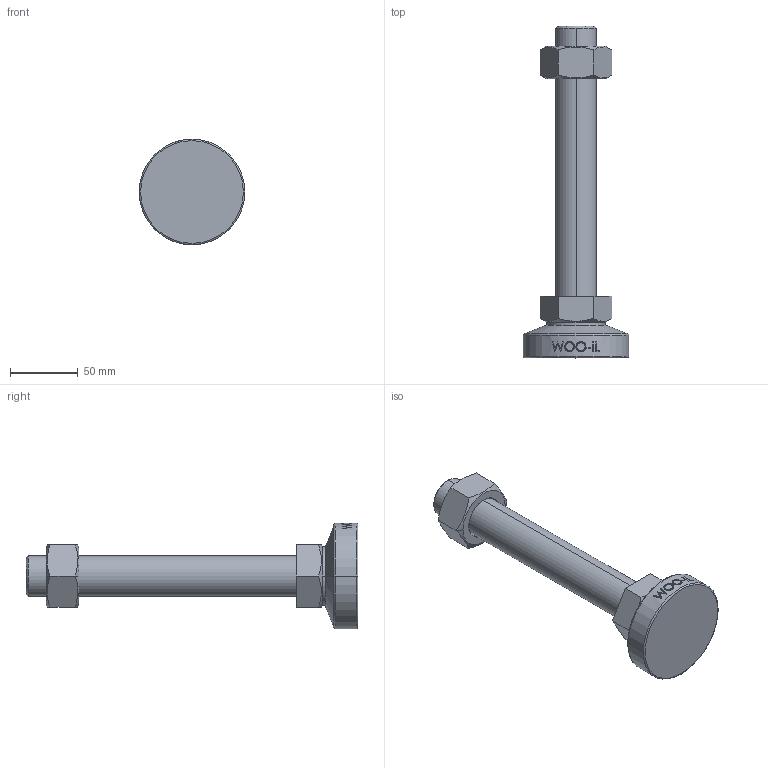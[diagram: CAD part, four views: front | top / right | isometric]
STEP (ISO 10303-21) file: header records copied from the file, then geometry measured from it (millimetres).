
FILE_DESCRIPTION (( 'STEP AP214' ), '1' );
FILE_NAME ('MFB78-M30-200.step', '2022-06-27T08:36:14', ( '' ), ( '' ), 'SwSTEP 2.0', 'SolidWorks 2019', '' );
FILE_SCHEMA (( 'AUTOMOTIVE_DESIGN' ));
Length unit declared in the file: millimetre
Products named in the file (1): MFB78-M30-200
Bounding box: 78 x 245.5 x 78 mm (x, y, z)
Volume: 309241.2 mm3; surface area: 47540.2 mm2
Topology: 3 solids, 3 shells, 97 faces, 225 edges, 144 vertices
Faces by surface type: plane 47, cylinder 16, bspline 16, cone 14, torus 4
Entity records: 4305 total; most frequent: CARTESIAN_POINT 2175, ORIENTED_EDGE 450, DIRECTION 385, EDGE_CURVE 225, VERTEX_POINT 144, AXIS2_PLACEMENT_3D 144, EDGE_LOOP 109, VECTOR 97
